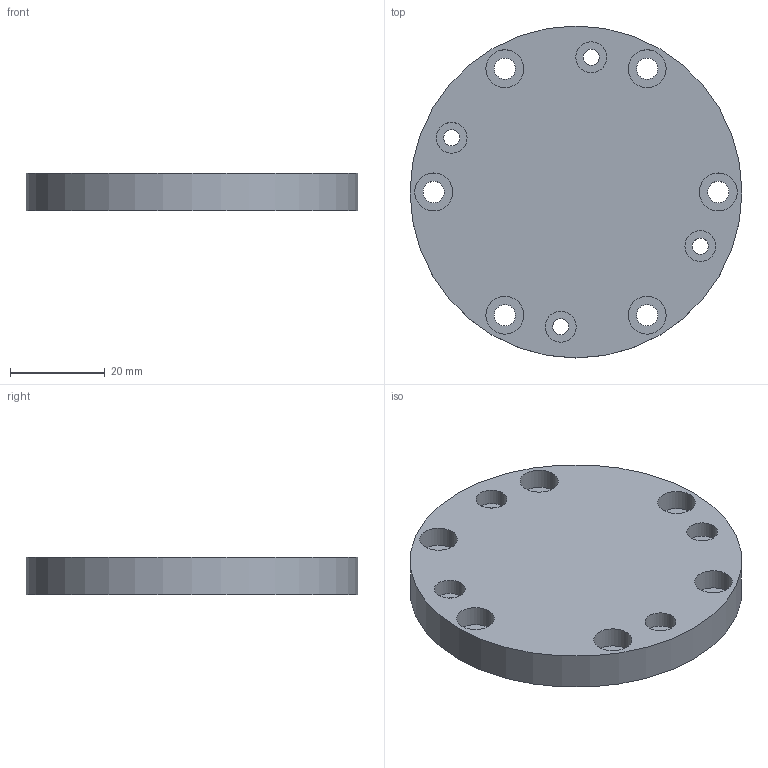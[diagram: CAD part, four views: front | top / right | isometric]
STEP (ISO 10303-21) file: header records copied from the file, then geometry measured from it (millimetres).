
FILE_DESCRIPTION(/* description */ ('Lid Vacuum Chamber'),/* implementation_level */ '2;1');
FILE_NAME(/* name */ 'ITPT.01.00.002.stp',/* time_stamp */ '2025-02-12T14:27:22+01:00',/* author */ ('Rüdiger Widera'),/* organization */ (''),/* preprocessor_version */ 'ST-DEVELOPER v19.2',/* originating_system */ 'Autodesk Inventor 2024',/* authorisation */ '');
FILE_SCHEMA (('AUTOMOTIVE_DESIGN { 1 0 10303 214 3 1 1 }'));
Length unit declared in the file: millimetre
Products named in the file (1): ITPT.01.00.002
Bounding box: 70 x 70 x 8 mm (x, y, z)
Volume: 28498.7 mm3; surface area: 10635.8 mm2
Topology: 1 solids, 1 shells, 33 faces, 63 edges, 42 vertices
Faces by surface type: cylinder 21, plane 12
Full cylindrical faces by diameter (mm): 3.4 x4, 4.5 x6, 6.5 x4, 8 x6, 70 x1
Entity records: 942 total; most frequent: DIRECTION 173, CARTESIAN_POINT 139, ORIENTED_EDGE 126, AXIS2_PLACEMENT_3D 76, EDGE_LOOP 63, EDGE_CURVE 63, CIRCLE 42, VERTEX_POINT 42
